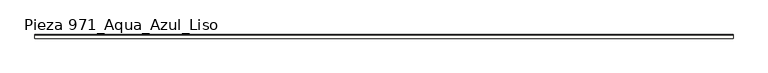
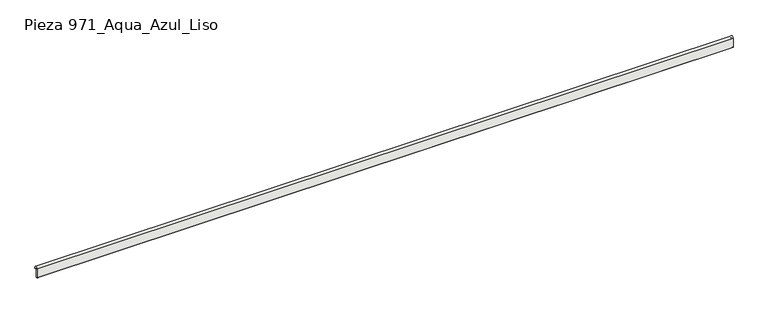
"""IFC4 building model written with IfcOpenShell, lengths in millimetres: slab geometry, ROSA GRES_971 : Pieza 971_Aqua_Azul_Liso."""

from ifc_helpers import new_model, si_unit, point, frame, frame_2d, origin, place, context, project, spatial, polyline, circle_curve, trimmed, segment, composite_curve, outline, extrude, source, transform, mapped, element, save


def pieza_971_aqua_azul_liso_26917b94(model_context):
    return source(origin(), model_context, "Body", "SweptSolid", [
        extrude(outline(composite_curve([segment(polyline([(31.1851409, 153.6242825), (39.9975962, 139.9882747), (39.9975962, 128.1510212), (28.5599154, 128.1510212), (22.7114874, 137.4414839)]), True, "CONTINUOUS"), segment(trimmed(circle_curve(frame_2d((18.761148, 135.3324983)), 4.4780578), [point((22.7114874, 137.4414839))], [point((14.3481673, 136.0931579))], True, "CARTESIAN"), True, "CONTINUOUS"), segment(polyline([(14.3481673, 136.0931579), (14.3481673, 113.5290116)]), True, "CONTINUOUS"), segment(trimmed(circle_curve(frame_2d((21.3613471, 107.0507801)), 9.5473648), [point((14.3481673, 113.5290116))], [point((14.9166636, 100.0067593))], True, "CARTESIAN"), True, "CONTINUOUS"), segment(polyline([(14.9166636, 100.0067593), (14.9166636, 88.7017059)]), True, "CONTINUOUS"), segment(trimmed(circle_curve(frame_2d((21.3511036, 81.7801218)), 9.450415), [point((14.9166636, 88.7017059))], [point((14.9614723, 74.8171516))], True, "CARTESIAN"), True, "CONTINUOUS"), segment(polyline([(14.9614723, 74.8171516), (14.9614723, 63.5120982)]), True, "CONTINUOUS"), segment(trimmed(circle_curve(frame_2d((21.3959123, 56.5905141)), 9.450415), [point((14.9614723, 63.5120982))], [point((15.0062809, 49.6275439))], True, "CARTESIAN"), True, "CONTINUOUS"), segment(polyline([(15.0062809, 49.6275439), (15.0062809, 41.3450913), (2.68, 41.3450913)]), True, "CONTINUOUS"), segment(trimmed(circle_curve(frame_2d((2.68, 44.0250913)), 2.68), [point((2.68, 41.3450913))], [point((0.0, 44.0250913))], False, "CARTESIAN"), True, "CONTINUOUS"), segment(polyline([(0.0, 44.0250913), (0.0, 146.1331033)]), True, "CONTINUOUS"), segment(trimmed(circle_curve(frame_2d((16.8529233, 144.6319512)), 16.9196478), [point((0.0, 146.1331033))], [point((31.1851409, 153.6242825))], False, "CARTESIAN"), True, "CONTINUOUS")], self_intersect=False)), frame((0.0, 0.0, 0.0), z_axis=(1.0, 0.0, 0.0), x_axis=(0.0, 1.0, 0.0)), (0.0, 0.0, 1.0), 7603.9469581),
    ])


if __name__ == "__main__":
    model = new_model("IFC4")
    model_context = context("Model", 3, world=origin())
    ifc_project = project(units=[si_unit("LENGTHUNIT", "METRE", prefix="MILLI")], contexts=[model_context])
    site = spatial("IfcSite", under=ifc_project)
    building = spatial("IfcBuilding", under=site)
    placement = place(None, origin())
    pieza_971_aqua_azul_liso_shape = pieza_971_aqua_azul_liso_26917b94(model_context)
    element("IfcSlab", 1, ObjectType="ROSA GRES_971 : Pieza 971_Aqua_Azul_Liso", at=placement, inside=building, context=model_context, shape_type="MappedRepresentation", body=[
        mapped(pieza_971_aqua_azul_liso_shape, transform((0.0, 0.0, 0.0), x_axis=(1.0, 0.0, 0.0), y_axis=(0.0, 1.0, 0.0), z_axis=(0.0, 0.0, 1.0))),
    ])
    save(model, "model.ifc")
